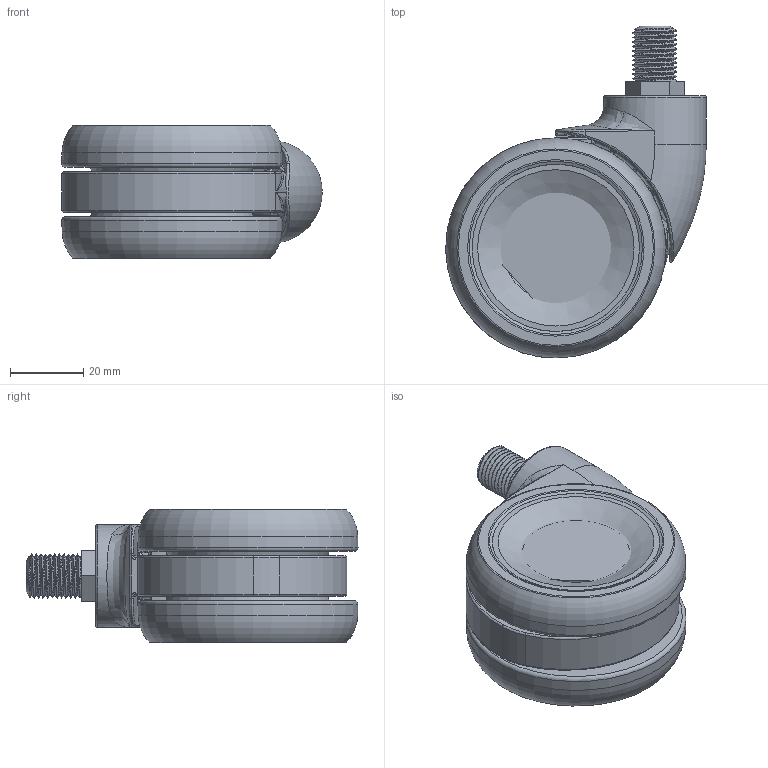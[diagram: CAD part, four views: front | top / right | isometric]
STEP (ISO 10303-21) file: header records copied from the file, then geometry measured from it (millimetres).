
FILE_DESCRIPTION (( 'STEP AP203' ), '1' );
FILE_NAME ('K09U28(M12).STEP', '2025-04-10T10:11:57', ( '' ), ( '' ), 'SwSTEP 2.0', 'SolidWorks 2025', '' );
FILE_SCHEMA (( 'CONFIG_CONTROL_DESIGN' ));
Length unit declared in the file: millimetre
Products named in the file (5): M12縦軸; 28カバー_2; 本体; K09U28(M12); TPU車輪
Assembly tree (5 placements, depth 2):
  K09U28(M12)
    本体
    M12縦軸
    28カバー_2
    TPU車輪  x2
Bounding box: 71 x 90.5 x 36.4 mm (x, y, z)
Volume: 82083.7 mm3; surface area: 59819.9 mm2
Topology: 9 solids, 10 shells, 706 faces, 1923 edges, 1152 vertices
Faces by surface type: plane 275, cylinder 149, torus 94, bspline 94, cone 58, sphere 36
Full cylindrical faces by diameter (mm): 2.3 x45, 7.7 x1, 9 x2, 9.4 x2, 15.6 x1, 16 x2, 16.2 x1, 17 x1, 28 x1, 34 x2, 34.95 x1, 35 x1, 36 x4, 36.4 x4, 38.35 x3, 44.15 x3, 46 x2, 46.95 x1, 47 x1, 54.897 x4
Entity records: 25646 total; most frequent: CARTESIAN_POINT 11970, ORIENTED_EDGE 2700, DIRECTION 2609, EDGE_CURVE 1350, AXIS2_PLACEMENT_3D 1146, VERTEX_POINT 881, EDGE_LOOP 849, FACE_OUTER_BOUND 692
